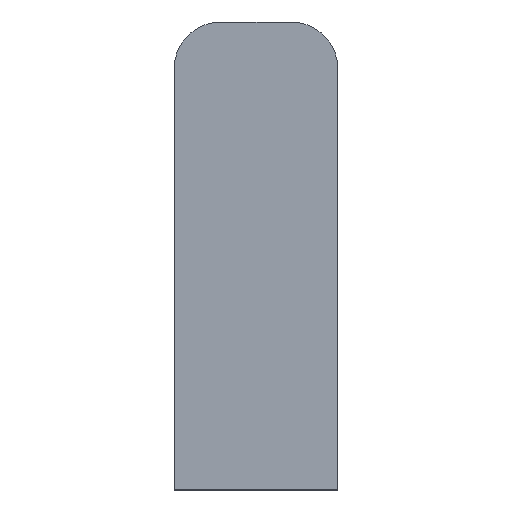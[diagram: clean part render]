
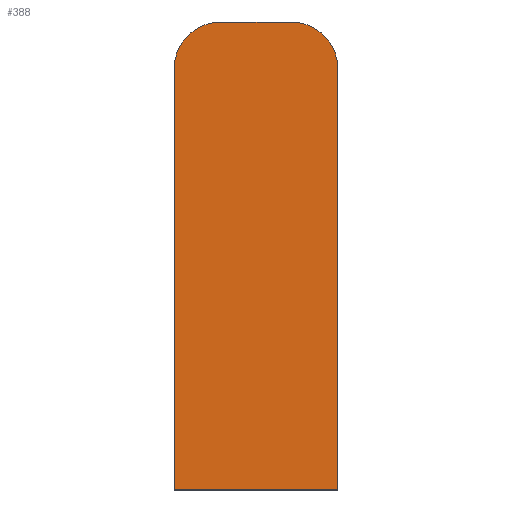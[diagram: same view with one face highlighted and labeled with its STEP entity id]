
A CAD part, front view. The second image highlights one B-rep face of the part: STEP entity #388.
In plain terms, the highlighted planar face has unit normal (0, -1, 0).
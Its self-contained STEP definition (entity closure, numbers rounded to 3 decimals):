
#33 = ORIENTED_EDGE ( 'NONE', *, *, #426, .T. ) ;
#34 = ORIENTED_EDGE ( 'NONE', *, *, #460, .T. ) ;
#53 = EDGE_LOOP ( 'NONE', ( #70, #34, #99, #33, #55, #56 ) ) ;
#55 = ORIENTED_EDGE ( 'NONE', *, *, #450, .T. ) ;
#56 = ORIENTED_EDGE ( 'NONE', *, *, #448, .T. ) ;
#70 = ORIENTED_EDGE ( 'NONE', *, *, #461, .T. ) ;
#99 = ORIENTED_EDGE ( 'NONE', *, *, #464, .T. ) ;
#109 = VECTOR ( 'NONE', #358, 1000. ) ;
#117 = CIRCLE ( 'NONE', #402, 3. ) ;
#121 = VECTOR ( 'NONE', #341, 1000. ) ;
#123 = LINE ( 'NONE', #340, #121 ) ;
#130 = VECTOR ( 'NONE', #356, 1000. ) ;
#133 = LINE ( 'NONE', #342, #134 ) ;
#134 = VECTOR ( 'NONE', #343, 1000. ) ;
#143 = FACE_OUTER_BOUND ( 'NONE', #53, .T. ) ;
#161 = LINE ( 'NONE', #355, #130 ) ;
#164 = CIRCLE ( 'NONE', #406, 3. ) ;
#165 = LINE ( 'NONE', #357, #109 ) ;
#177 = VERTEX_POINT ( 'NONE', #257 ) ;
#181 = CARTESIAN_POINT ( 'NONE',  ( -2.25, 0., 13.5 ) ) ;
#184 = VERTEX_POINT ( 'NONE', #204 ) ;
#189 = VERTEX_POINT ( 'NONE', #181 ) ;
#198 = VERTEX_POINT ( 'NONE', #215 ) ;
#200 = VERTEX_POINT ( 'NONE', #217 ) ;
#201 = VERTEX_POINT ( 'NONE', #218 ) ;
#204 = CARTESIAN_POINT ( 'NONE',  ( 5.25, 0., -16.5 ) ) ;
#215 = CARTESIAN_POINT ( 'NONE',  ( -5.25, 0., -16.5 ) ) ;
#217 = CARTESIAN_POINT ( 'NONE',  ( -5.25, 0., 10.5 ) ) ;
#218 = CARTESIAN_POINT ( 'NONE',  ( 5.25, 0., 10.5 ) ) ;
#251 = PLANE ( 'NONE',  #436 ) ;
#255 = CARTESIAN_POINT ( 'NONE',  ( 0., 0., -1.5 ) ) ;
#257 = CARTESIAN_POINT ( 'NONE',  ( 2.25, 0., 13.5 ) ) ;
#275 = DIRECTION ( 'NONE',  ( 0., 1., 0. ) ) ;
#276 = DIRECTION ( 'NONE',  ( -1., 0., 0. ) ) ;
#306 = CARTESIAN_POINT ( 'NONE',  ( -2.25, 0., 10.5 ) ) ;
#313 = DIRECTION ( 'NONE',  ( 0., -1., 0. ) ) ;
#314 = DIRECTION ( 'NONE',  ( -1., 0., 0. ) ) ;
#340 = CARTESIAN_POINT ( 'NONE',  ( 5.25, 0., -16.5 ) ) ;
#341 = DIRECTION ( 'NONE',  ( 1., 0., 0. ) ) ;
#342 = CARTESIAN_POINT ( 'NONE',  ( -5.25, 0., -16.5 ) ) ;
#343 = DIRECTION ( 'NONE',  ( 0., 0., -1. ) ) ;
#351 = CARTESIAN_POINT ( 'NONE',  ( 2.25, 0., 10.5 ) ) ;
#353 = DIRECTION ( 'NONE',  ( 0., -1., 0. ) ) ;
#354 = DIRECTION ( 'NONE',  ( -1., 0., 0. ) ) ;
#355 = CARTESIAN_POINT ( 'NONE',  ( 5.25, 0., -16.5 ) ) ;
#356 = DIRECTION ( 'NONE',  ( 0., 0., 1. ) ) ;
#357 = CARTESIAN_POINT ( 'NONE',  ( 2.25, 0., 13.5 ) ) ;
#358 = DIRECTION ( 'NONE',  ( -1., 0., 0. ) ) ;
#388 = ADVANCED_FACE ( 'NONE', ( #143 ), #251, .F. ) ;
#402 = AXIS2_PLACEMENT_3D ( 'NONE', #306, #313, #314 ) ;
#406 = AXIS2_PLACEMENT_3D ( 'NONE', #351, #353, #354 ) ;
#426 = EDGE_CURVE ( 'NONE', #189, #200, #117, .T. ) ;
#436 = AXIS2_PLACEMENT_3D ( 'NONE', #255, #275, #276 ) ;
#448 = EDGE_CURVE ( 'NONE', #198, #184, #123, .T. ) ;
#450 = EDGE_CURVE ( 'NONE', #200, #198, #133, .T. ) ;
#460 = EDGE_CURVE ( 'NONE', #201, #177, #164, .T. ) ;
#461 = EDGE_CURVE ( 'NONE', #184, #201, #161, .T. ) ;
#464 = EDGE_CURVE ( 'NONE', #177, #189, #165, .T. ) ;
